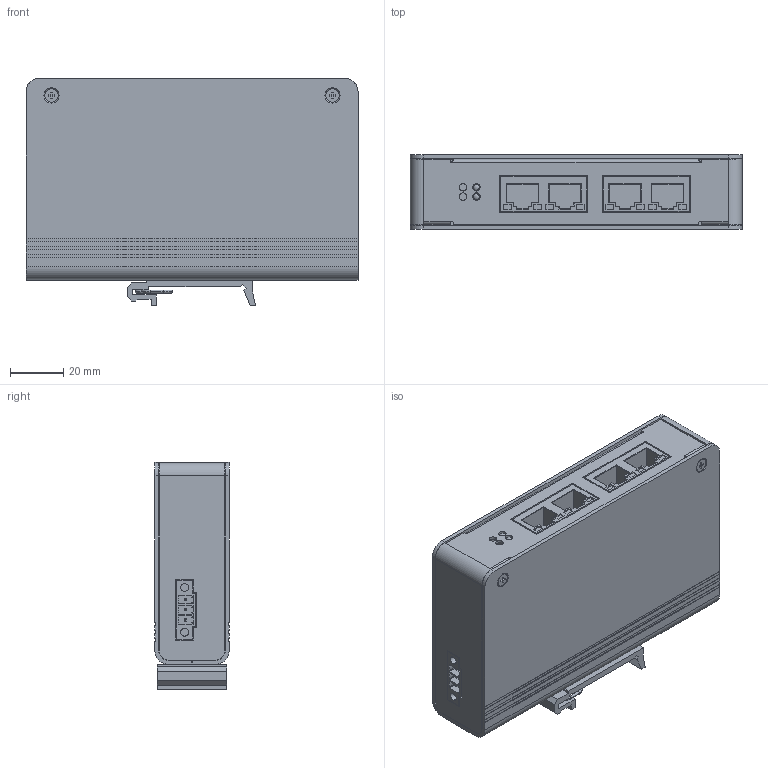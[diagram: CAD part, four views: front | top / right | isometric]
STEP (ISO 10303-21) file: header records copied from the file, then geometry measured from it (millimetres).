
FILE_DESCRIPTION((''),'2;1');
FILE_NAME('00-PXB______SW0001','2025-07-15T15:33:51',('hepeizong'),(''),'CREO PARAMETRIC BY PTC INC, 2021404','CREO PARAMETRIC BY PTC INC, 2021404','');
FILE_SCHEMA(('CONFIG_CONTROL_DESIGN','SHAPE_APPEARANCE_LAYERS_GROUPS'));
Length unit declared in the file: millimetre
Products named in the file (1): 00-PXB______SW0001
Bounding box: 125 x 28 x 85.5 mm (x, y, z)
Volume: 91715 mm3; surface area: 102658.3 mm2
Topology: 4 solids, 4 shells, 1470 faces, 3744 edges, 2408 vertices
Faces by surface type: plane 872, cylinder 456, cone 94, torus 38, bspline 8, sphere 2
Entity records: 50360 total; most frequent: CARTESIAN_POINT 9998, ORIENTED_EDGE 7488, DIRECTION 7057, EDGE_CURVE 3744, VECTOR 2595, LINE 2595, VERTEX_POINT 2408, AXIS2_PLACEMENT_3D 2231
